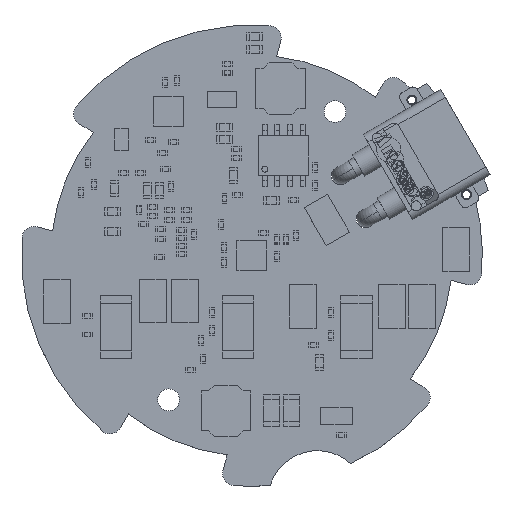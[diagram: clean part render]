
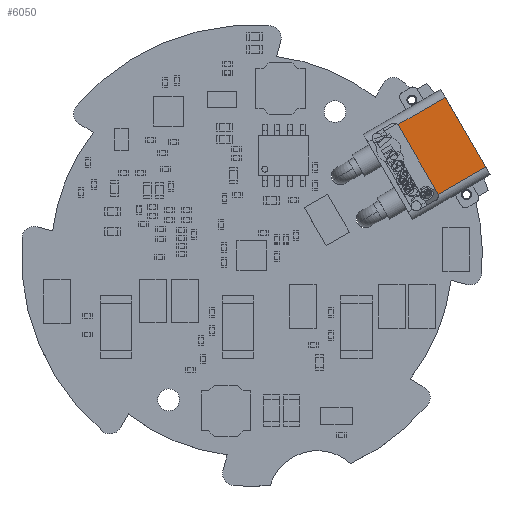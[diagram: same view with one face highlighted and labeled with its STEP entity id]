
A CAD part, top view. The second image highlights one B-rep face of the part: STEP entity #6050.
In plain terms, the highlighted planar face has unit normal (0, 0, 1).
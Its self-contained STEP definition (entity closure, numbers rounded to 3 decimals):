
#4228 = VERTEX_POINT('',#4229);
#4229 = CARTESIAN_POINT('',(69.481,65.933,
    5.183));
#4236 = EDGE_CURVE('',#4228,#4237,#4239,.T.);
#4237 = VERTEX_POINT('',#4238);
#4238 = CARTESIAN_POINT('',(73.531,58.918,
    5.183));
#4239 = LINE('',#4240,#4241);
#4240 = CARTESIAN_POINT('',(74.606,57.056,
    5.183));
#4241 = VECTOR('',#4242,1.);
#4242 = DIRECTION('',(0.5,-0.866,0.
    ));
#5512 = EDGE_CURVE('',#4237,#5513,#5515,.T.);
#5513 = VERTEX_POINT('',#5514);
#5514 = CARTESIAN_POINT('',(68.76,56.163,
    5.183));
#5515 = LINE('',#5516,#5517);
#5516 = CARTESIAN_POINT('',(74.484,59.468,
    5.183));
#5517 = VECTOR('',#5518,1.);
#5518 = DIRECTION('',(-0.866,-0.5,
    0.));
#5669 = VERTEX_POINT('',#5670);
#5670 = CARTESIAN_POINT('',(64.71,63.178,
    5.183));
#5679 = EDGE_CURVE('',#5669,#4228,#5680,.T.);
#5680 = LINE('',#5681,#5682);
#5681 = CARTESIAN_POINT('',(61.687,61.433,
    5.183));
#5682 = VECTOR('',#5683,1.);
#5683 = DIRECTION('',(0.866,0.5,0.)
  );
#6050 = ADVANCED_FACE('',(#6051),#6080,.F.);
#6051 = FACE_BOUND('',#6052,.T.);
#6052 = EDGE_LOOP('',(#6053,#6054,#6055,#6056,#6065,#6073));
#6053 = ORIENTED_EDGE('',*,*,#5512,.F.);
#6054 = ORIENTED_EDGE('',*,*,#4236,.F.);
#6055 = ORIENTED_EDGE('',*,*,#5679,.F.);
#6056 = ORIENTED_EDGE('',*,*,#6057,.F.);
#6057 = EDGE_CURVE('',#6058,#5669,#6060,.T.);
#6058 = VERTEX_POINT('',#6059);
#6059 = CARTESIAN_POINT('',(64.768,63.096,
    5.183));
#6060 = CIRCLE('',#6061,0.5);
#6061 = AXIS2_PLACEMENT_3D('',#6062,#6063,#6064);
#6062 = CARTESIAN_POINT('',(64.335,62.846,
    5.183));
#6063 = DIRECTION('',(0.,0.,1.));
#6064 = DIRECTION('',(0.866,0.5,0.)
  );
#6065 = ORIENTED_EDGE('',*,*,#6066,.F.);
#6066 = EDGE_CURVE('',#6067,#6058,#6069,.T.);
#6067 = VERTEX_POINT('',#6068);
#6068 = CARTESIAN_POINT('',(68.718,56.255,
    5.183));
#6069 = LINE('',#6070,#6071);
#6070 = CARTESIAN_POINT('',(64.693,63.226,
    5.183));
#6071 = VECTOR('',#6072,1.);
#6072 = DIRECTION('',(-0.5,0.866,0.)
  );
#6073 = ORIENTED_EDGE('',*,*,#6074,.F.);
#6074 = EDGE_CURVE('',#5513,#6067,#6075,.T.);
#6075 = CIRCLE('',#6076,0.5);
#6076 = AXIS2_PLACEMENT_3D('',#6077,#6078,#6079);
#6077 = CARTESIAN_POINT('',(68.285,56.005,
    5.183));
#6078 = DIRECTION('',(0.,0.,1.));
#6079 = DIRECTION('',(0.866,0.5,0.)
  );
#6080 = PLANE('',#6081);
#6081 = AXIS2_PLACEMENT_3D('',#6082,#6083,#6084);
#6082 = CARTESIAN_POINT('',(61.662,61.476,
    5.183));
#6083 = DIRECTION('',(0.,0.,-1.));
#6084 = DIRECTION('',(0.5,-0.866,0.
    ));
